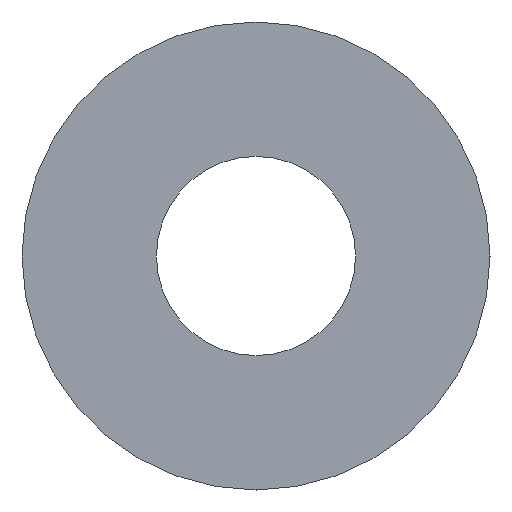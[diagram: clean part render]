
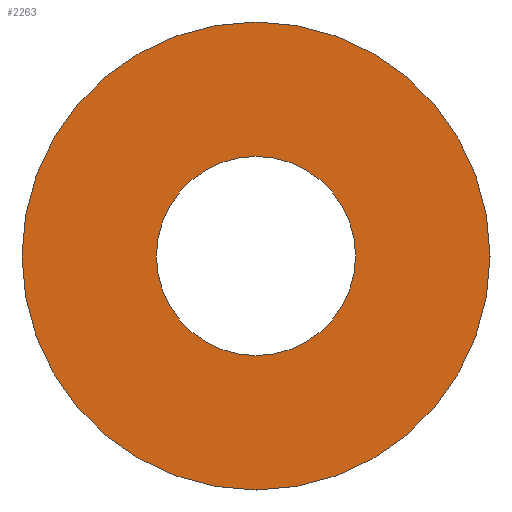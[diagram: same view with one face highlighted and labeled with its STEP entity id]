
A CAD part, front view. The second image highlights one B-rep face of the part: STEP entity #2263.
In plain terms, the highlighted planar face has unit normal (0, -1, 0).
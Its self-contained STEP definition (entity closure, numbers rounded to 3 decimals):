
#1 = ORIENTED_EDGE ( 'NONE', *, *, #233, .F. ) ;
#20 = CARTESIAN_POINT ( 'NONE',  ( 0., -14., 0. ) ) ;
#37 = CIRCLE ( 'NONE', #622, 23.5 ) ;
#164 = DIRECTION ( 'NONE',  ( 0., -1., 0. ) ) ;
#188 = VERTEX_POINT ( 'NONE', #922 ) ;
#200 = ORIENTED_EDGE ( 'NONE', *, *, #338, .F. ) ;
#202 = DIRECTION ( 'NONE',  ( 0., 0., -1. ) ) ;
#215 = CARTESIAN_POINT ( 'NONE',  ( 0., -14., 0. ) ) ;
#233 = EDGE_CURVE ( 'NONE', #188, #1882, #1439, .T. ) ;
#249 = DIRECTION ( 'NONE',  ( 0., -1., 0. ) ) ;
#281 = CIRCLE ( 'NONE', #1754, 10. ) ;
#314 = CARTESIAN_POINT ( 'NONE',  ( 0., -14., 10. ) ) ;
#338 = EDGE_CURVE ( 'NONE', #1882, #188, #281, .T. ) ;
#400 = EDGE_CURVE ( 'NONE', #590, #2031, #37, .T. ) ;
#442 = EDGE_LOOP ( 'NONE', ( #1426, #1821 ) ) ;
#590 = VERTEX_POINT ( 'NONE', #905 ) ;
#603 = EDGE_CURVE ( 'NONE', #2031, #590, #2238, .T. ) ;
#617 = CARTESIAN_POINT ( 'NONE',  ( 0., -14., 23.5 ) ) ;
#621 = CARTESIAN_POINT ( 'NONE',  ( 0., -14., 0. ) ) ;
#622 = AXIS2_PLACEMENT_3D ( 'NONE', #621, #868, #1767 ) ;
#764 = DIRECTION ( 'NONE',  ( 0., -1., 0. ) ) ;
#868 = DIRECTION ( 'NONE',  ( 0., -1., 0. ) ) ;
#905 = CARTESIAN_POINT ( 'NONE',  ( 0., -14., -23.5 ) ) ;
#922 = CARTESIAN_POINT ( 'NONE',  ( 0., -14., 10. ) ) ;
#1057 = DIRECTION ( 'NONE',  ( 0., 0., -1. ) ) ;
#1260 = DIRECTION ( 'NONE',  ( 0., 1., 0. ) ) ;
#1386 = AXIS2_PLACEMENT_3D ( 'NONE', #314, #1260, #2015 ) ;
#1426 = ORIENTED_EDGE ( 'NONE', *, *, #400, .T. ) ;
#1439 = CIRCLE ( 'NONE', #1654, 10. ) ;
#1496 = CARTESIAN_POINT ( 'NONE',  ( 0., -14., -10. ) ) ;
#1593 = FACE_BOUND ( 'NONE', #2152, .T. ) ;
#1654 = AXIS2_PLACEMENT_3D ( 'NONE', #215, #764, #202 ) ;
#1660 = CARTESIAN_POINT ( 'NONE',  ( 0., -14., 0. ) ) ;
#1754 = AXIS2_PLACEMENT_3D ( 'NONE', #20, #249, #2331 ) ;
#1767 = DIRECTION ( 'NONE',  ( 0., 0., -1. ) ) ;
#1821 = ORIENTED_EDGE ( 'NONE', *, *, #603, .T. ) ;
#1882 = VERTEX_POINT ( 'NONE', #1496 ) ;
#2015 = DIRECTION ( 'NONE',  ( 0., 0., 1. ) ) ;
#2031 = VERTEX_POINT ( 'NONE', #617 ) ;
#2043 = PLANE ( 'NONE',  #1386 ) ;
#2152 = EDGE_LOOP ( 'NONE', ( #200, #1 ) ) ;
#2237 = AXIS2_PLACEMENT_3D ( 'NONE', #1660, #164, #1057 ) ;
#2238 = CIRCLE ( 'NONE', #2237, 23.5 ) ;
#2263 = ADVANCED_FACE ( 'NONE', ( #1593, #2439 ), #2043, .F. ) ;
#2331 = DIRECTION ( 'NONE',  ( 0., 0., -1. ) ) ;
#2439 = FACE_OUTER_BOUND ( 'NONE', #442, .T. ) ;
